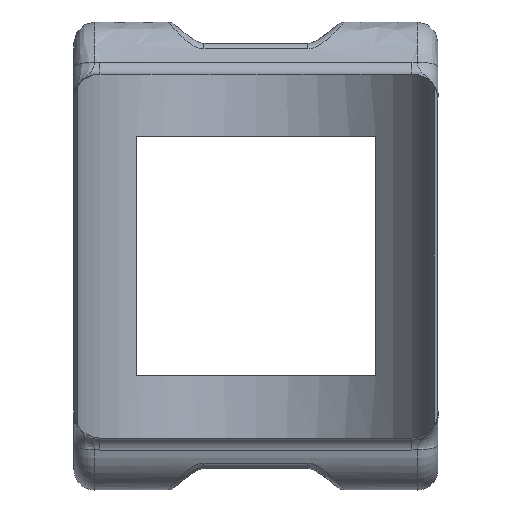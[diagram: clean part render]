
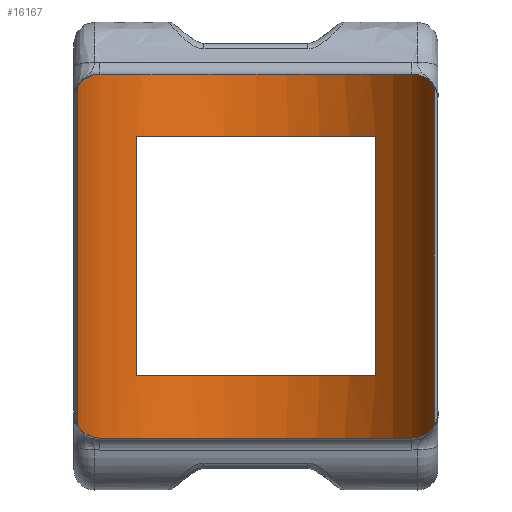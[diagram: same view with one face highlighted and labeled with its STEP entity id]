
A CAD part, left-side view. The second image highlights one B-rep face of the part: STEP entity #16167.
In plain terms, the highlighted cylindrical face has radius 18 mm (diameter 36 mm), a partial arc.
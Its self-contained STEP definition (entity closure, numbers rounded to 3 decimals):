
#49=CARTESIAN_POINT('',(0.328,-14.181,-3.463));
#50=VERTEX_POINT('',#49);
#51=CARTESIAN_POINT('',(0.328,8.819,-3.463));
#52=VERTEX_POINT('',#51);
#53=CARTESIAN_POINT('',(-13.52,-2.681,-3.463));
#54=DIRECTION('',(0.0,0.0,1.0));
#55=DIRECTION('',(-1.0,0.0,0.0));
#56=AXIS2_PLACEMENT_3D('',#53,#54,#55);
#57=CIRCLE('',#56,18.0);
#58=EDGE_CURVE('',#50,#52,#57,.T.);
#7920=CARTESIAN_POINT('',(-8.02,14.458,1.33));
#7921=VERTEX_POINT('',#7920);
#7929=CARTESIAN_POINT('',(-3.57,12.319,2.537));
#7930=VERTEX_POINT('',#7929);
#7931=CARTESIAN_POINT('',(-3.57,12.319,2.537));
#7932=CARTESIAN_POINT('',(-4.212,12.745,2.537));
#7933=CARTESIAN_POINT('',(-4.935,13.161,2.425));
#7934=CARTESIAN_POINT('',(-5.666,13.516,2.232));
#7935=CARTESIAN_POINT('',(-6.071,13.712,2.125));
#7936=CARTESIAN_POINT('',(-6.479,13.89,1.993));
#7937=CARTESIAN_POINT('',(-6.874,14.047,1.843));
#7938=CARTESIAN_POINT('',(-7.109,14.141,1.754));
#7939=CARTESIAN_POINT('',(-7.339,14.227,1.658));
#7940=CARTESIAN_POINT('',(-7.562,14.305,1.556));
#7941=CARTESIAN_POINT('',(-7.685,14.348,1.499));
#7942=CARTESIAN_POINT('',(-7.806,14.389,1.441));
#7943=CARTESIAN_POINT('',(-7.932,14.43,1.376));
#7944=CARTESIAN_POINT('',(-7.961,14.439,1.361));
#7945=CARTESIAN_POINT('',(-7.99,14.449,1.346));
#7946=CARTESIAN_POINT('',(-8.02,14.458,1.33));
#7947=B_SPLINE_CURVE_WITH_KNOTS('',3,(#7931,#7932,#7933,#7934,#7935,#7936,#7937,#7938,#7939,#7940,#7941,#7942,#7943,#7944,#7945,#7946),.UNSPECIFIED.,.F.,.U.,(4,3,3,3,3,4),(0.494,0.725,0.853,0.929,0.971,0.981),.UNSPECIFIED.);
#7948=EDGE_CURVE('',#7930,#7921,#7947,.T.);
#7966=CARTESIAN_POINT('',(-3.57,-17.681,2.537));
#7967=VERTEX_POINT('',#7966);
#7968=CARTESIAN_POINT('',(-13.52,-2.681,2.537));
#7969=DIRECTION('',(0.0,0.0,-1.));
#7970=DIRECTION('',(-0.306,0.952,0.0));
#7971=AXIS2_PLACEMENT_3D('',#7968,#7969,#7970);
#7972=CIRCLE('',#7971,18.);
#7973=EDGE_CURVE('',#7930,#7967,#7972,.T.);
#8012=CARTESIAN_POINT('',(-8.02,-19.82,1.33));
#8013=VERTEX_POINT('',#8012);
#8014=CARTESIAN_POINT('',(-8.02,-19.82,1.33));
#8015=CARTESIAN_POINT('',(-7.891,-19.779,1.399));
#8016=CARTESIAN_POINT('',(-7.767,-19.737,1.46));
#8017=CARTESIAN_POINT('',(-7.644,-19.695,1.518));
#8018=CARTESIAN_POINT('',(-6.99,-19.469,1.825));
#8019=CARTESIAN_POINT('',(-6.264,-19.173,2.081));
#8020=CARTESIAN_POINT('',(-5.55,-18.82,2.262));
#8021=CARTESIAN_POINT('',(-4.858,-18.479,2.437));
#8022=CARTESIAN_POINT('',(-4.178,-18.084,2.537));
#8023=CARTESIAN_POINT('',(-3.57,-17.681,2.537));
#8024=B_SPLINE_CURVE_WITH_KNOTS('',3,(#8014,#8015,#8016,#8017,#8018,#8019,#8020,#8021,#8022,#8023),.UNSPECIFIED.,.F.,.U.,(4,3,3,4),(-0.981,-0.939,-0.713,-0.494),.UNSPECIFIED.);
#8025=EDGE_CURVE('',#8013,#7967,#8024,.T.);
#9553=CARTESIAN_POINT('',(-8.02,-19.82,-31.257));
#9554=VERTEX_POINT('',#9553);
#9555=CARTESIAN_POINT('',(-8.02,-19.82,-31.257));
#9556=DIRECTION('',(0.0,0.0,1.0));
#9557=VECTOR('',#9556,32.588);
#9558=LINE('',#9555,#9557);
#9559=EDGE_CURVE('',#9554,#8013,#9558,.T.);
#9578=CARTESIAN_POINT('',(0.328,8.819,-26.463));
#9579=VERTEX_POINT('',#9578);
#9580=CARTESIAN_POINT('',(0.328,8.819,-26.463));
#9581=DIRECTION('',(0.0,0.0,1.0));
#9582=VECTOR('',#9581,23.);
#9583=LINE('',#9580,#9582);
#9584=EDGE_CURVE('',#9579,#52,#9583,.T.);
#16068=CARTESIAN_POINT('',(-3.57,12.319,-32.463));
#16069=VERTEX_POINT('',#16068);
#16076=CARTESIAN_POINT('',(-8.02,14.458,-31.257));
#16077=VERTEX_POINT('',#16076);
#16078=CARTESIAN_POINT('',(-3.57,12.319,-32.463));
#16079=CARTESIAN_POINT('',(-4.212,12.745,-32.463));
#16080=CARTESIAN_POINT('',(-4.935,13.161,-32.352));
#16081=CARTESIAN_POINT('',(-5.666,13.516,-32.159));
#16082=CARTESIAN_POINT('',(-6.071,13.712,-32.051));
#16083=CARTESIAN_POINT('',(-6.479,13.89,-31.92));
#16084=CARTESIAN_POINT('',(-6.874,14.047,-31.77));
#16085=CARTESIAN_POINT('',(-7.109,14.141,-31.681));
#16086=CARTESIAN_POINT('',(-7.339,14.227,-31.585));
#16087=CARTESIAN_POINT('',(-7.562,14.305,-31.483));
#16088=CARTESIAN_POINT('',(-7.685,14.348,-31.426));
#16089=CARTESIAN_POINT('',(-7.806,14.389,-31.368));
#16090=CARTESIAN_POINT('',(-7.932,14.43,-31.303));
#16091=CARTESIAN_POINT('',(-7.961,14.439,-31.288));
#16092=CARTESIAN_POINT('',(-7.99,14.449,-31.273));
#16093=CARTESIAN_POINT('',(-8.02,14.458,-31.257));
#16094=B_SPLINE_CURVE_WITH_KNOTS('',3,(#16078,#16079,#16080,#16081,#16082,#16083,#16084,#16085,#16086,#16087,#16088,#16089,#16090,#16091,#16092,#16093),.UNSPECIFIED.,.F.,.U.,(4,3,3,3,3,4),(0.494,0.725,0.853,0.929,0.971,0.981),.UNSPECIFIED.);
#16095=EDGE_CURVE('',#16069,#16077,#16094,.T.);
#16108=CARTESIAN_POINT('',(-13.52,-2.681,-32.463));
#16109=DIRECTION('',(0.0,0.0,1.0));
#16110=DIRECTION('',(-1.0,0.0,0.0));
#16111=AXIS2_PLACEMENT_3D('',#16108,#16109,#16110);
#16112=CYLINDRICAL_SURFACE('',#16111,18.0);
#16113=CARTESIAN_POINT('',(-8.02,14.458,-31.257));
#16114=DIRECTION('',(0.0,0.0,1.0));
#16115=VECTOR('',#16114,32.588);
#16116=LINE('',#16113,#16115);
#16117=EDGE_CURVE('',#16077,#7921,#16116,.T.);
#16118=ORIENTED_EDGE('',*,*,#16117,.F.);
#16119=ORIENTED_EDGE('',*,*,#16095,.F.);
#16120=CARTESIAN_POINT('',(-3.57,-17.681,-32.463));
#16121=VERTEX_POINT('',#16120);
#16122=CARTESIAN_POINT('',(-13.52,-2.681,-32.463));
#16123=DIRECTION('',(0.0,0.0,-1.));
#16124=DIRECTION('',(-0.306,0.952,0.0));
#16125=AXIS2_PLACEMENT_3D('',#16122,#16123,#16124);
#16126=CIRCLE('',#16125,18.);
#16127=EDGE_CURVE('',#16069,#16121,#16126,.T.);
#16128=ORIENTED_EDGE('',*,*,#16127,.T.);
#16129=CARTESIAN_POINT('',(-8.02,-19.82,-31.257));
#16130=CARTESIAN_POINT('',(-7.891,-19.779,-31.325));
#16131=CARTESIAN_POINT('',(-7.767,-19.737,-31.387));
#16132=CARTESIAN_POINT('',(-7.644,-19.695,-31.445));
#16133=CARTESIAN_POINT('',(-6.99,-19.469,-31.751));
#16134=CARTESIAN_POINT('',(-6.264,-19.173,-32.008));
#16135=CARTESIAN_POINT('',(-5.55,-18.82,-32.189));
#16136=CARTESIAN_POINT('',(-4.858,-18.479,-32.364));
#16137=CARTESIAN_POINT('',(-4.178,-18.084,-32.463));
#16138=CARTESIAN_POINT('',(-3.57,-17.681,-32.463));
#16139=B_SPLINE_CURVE_WITH_KNOTS('',3,(#16129,#16130,#16131,#16132,#16133,#16134,#16135,#16136,#16137,#16138),.UNSPECIFIED.,.F.,.U.,(4,3,3,4),(-0.981,-0.939,-0.713,-0.494),.UNSPECIFIED.);
#16140=EDGE_CURVE('',#9554,#16121,#16139,.T.);
#16141=ORIENTED_EDGE('',*,*,#16140,.F.);
#16142=ORIENTED_EDGE('',*,*,#9559,.T.);
#16143=ORIENTED_EDGE('',*,*,#8025,.T.);
#16144=ORIENTED_EDGE('',*,*,#7973,.F.);
#16145=ORIENTED_EDGE('',*,*,#7948,.T.);
#16146=EDGE_LOOP('',(#16118,#16119,#16128,#16141,#16142,#16143,#16144,#16145));
#16147=FACE_OUTER_BOUND('',#16146,.T.);
#16148=CARTESIAN_POINT('',(0.328,-14.181,-26.463));
#16149=VERTEX_POINT('',#16148);
#16150=CARTESIAN_POINT('',(0.328,-14.181,-26.463));
#16151=DIRECTION('',(0.0,0.0,1.0));
#16152=VECTOR('',#16151,23.);
#16153=LINE('',#16150,#16152);
#16154=EDGE_CURVE('',#16149,#50,#16153,.T.);
#16155=ORIENTED_EDGE('',*,*,#16154,.F.);
#16156=CARTESIAN_POINT('',(-13.52,-2.681,-26.463));
#16157=DIRECTION('',(0.0,0.0,-1.0));
#16158=DIRECTION('',(-1.0,0.0,0.0));
#16159=AXIS2_PLACEMENT_3D('',#16156,#16157,#16158);
#16160=CIRCLE('',#16159,18.0);
#16161=EDGE_CURVE('',#9579,#16149,#16160,.T.);
#16162=ORIENTED_EDGE('',*,*,#16161,.F.);
#16163=ORIENTED_EDGE('',*,*,#9584,.T.);
#16164=ORIENTED_EDGE('',*,*,#58,.F.);
#16165=EDGE_LOOP('',(#16155,#16162,#16163,#16164));
#16166=FACE_BOUND('',#16165,.T.);
#16167=ADVANCED_FACE('',(#16147,#16166),#16112,.F.);
